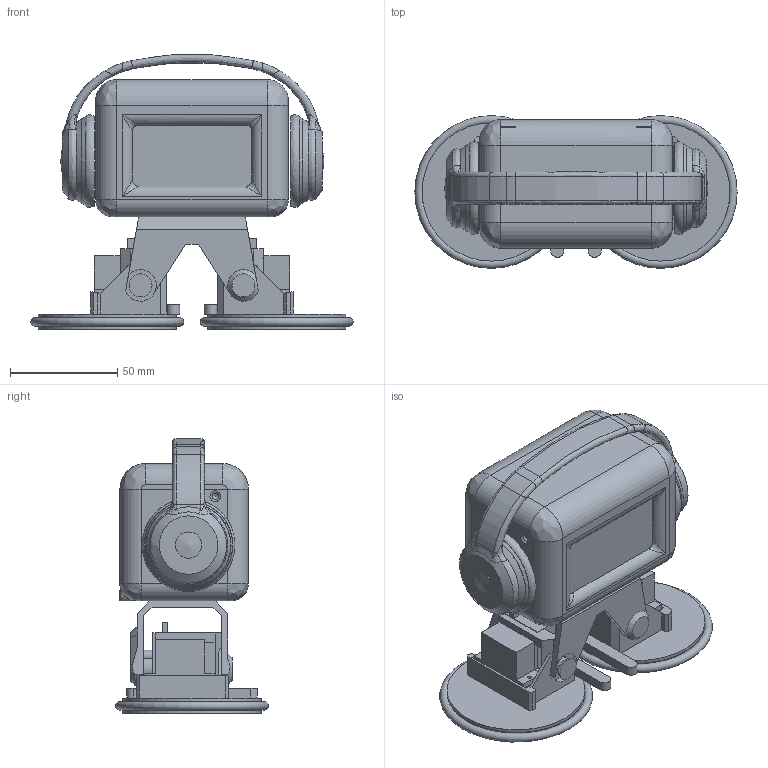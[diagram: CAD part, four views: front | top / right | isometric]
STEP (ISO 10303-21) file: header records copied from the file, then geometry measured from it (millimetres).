
FILE_DESCRIPTION(/* description */ (''),/* implementation_level */ '2;1');
FILE_NAME(/* name */ 'CAKE 2.0 v1.step',/* time_stamp */ '2025-05-13T10:44:32+05:30',/* author */ (''),/* organization */ (''),/* preprocessor_version */ 'ST-DEVELOPER v20.1',/* originating_system */ 'Autodesk Translation Framework v14.4.0.0',/* authorisation */ '');
FILE_SCHEMA (('AUTOMOTIVE_DESIGN { 1 0 10303 214 3 1 1 }'));
Products named in the file (19): CAKE 2.0; HEAD (1); LEGS; ANKLE; FOOT; Component28; Component29; Component30; Component31; ANKLE(Mirror); FOOT(Mirror); Component28(Mirror); Component29(Mirror); Component30(Mirror); pcb; screen; cable; HEAD LID; Òåëî7
Assembly tree (18 placements, depth 3):
  CAKE 2.0
    HEAD (1)
    LEGS
      ANKLE
      FOOT
      Component28
      Component29
      Component30
      Component31
      ANKLE(Mirror)
      FOOT(Mirror)
      Component28(Mirror)
      Component29(Mirror)
      Component30(Mirror)
    pcb
      screen
      cable
    HEAD LID
    Òåëî7
Bounding box: 150.25 x 71.25 x 128.13 mm (x, y, z)
Volume: 216965.7 mm3; surface area: 140736.1 mm2
Topology: 73 solids, 74 shells, 1597 faces, 4043 edges, 2616 vertices
Faces by surface type: plane 968, cylinder 319, bspline 233, cone 52, sphere 14, torus 11
Full cylindrical faces by diameter (mm): 0.905 x14, 1.8 x17, 2.4 x2, 3 x22, 3.6 x8, 7.5 x3, 8 x6, 8.75 x2, 12.283 x2, 24 x2, 27.283 x2, 61.5 x2, 63 x2, 64.5 x4
Entity records: 56328 total; most frequent: CARTESIAN_POINT 17886, ORIENTED_EDGE 8052, DIRECTION 7325, EDGE_CURVE 4031, LINE 2727, VECTOR 2727, VERTEX_POINT 2615, AXIS2_PLACEMENT_3D 2299
